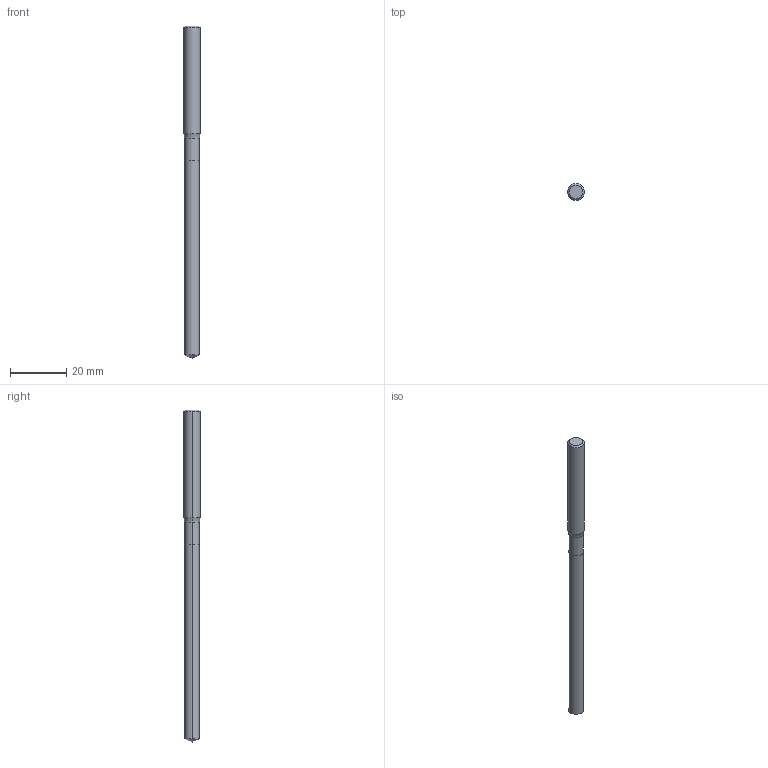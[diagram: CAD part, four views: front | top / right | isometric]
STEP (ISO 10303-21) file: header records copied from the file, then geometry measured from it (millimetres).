
FILE_DESCRIPTION (( 'STEP AP214' ), '1' );
FILE_NAME ('710.053.00_3D-model.step', '2022-02-22T16:46:21', ( '' ), ( '' ), 'SwSTEP 2.0', 'SolidWorks 2020', '' );
FILE_SCHEMA (( 'AUTOMOTIVE_DESIGN' ));
Length unit declared in the file: millimetre
Products named in the file (3): 710.053.00_3D-model; NOCUT-3D^Baugr14; CUT-3D^Baugr14
Assembly tree (2 placements, depth 2):
  710.053.00_3D-model
    CUT-3D^Baugr14
    NOCUT-3D^Baugr14
Bounding box: 6 x 6 x 118 mm (x, y, z)
Volume: 2825.6 mm3; surface area: 2122.1 mm2
Topology: 2 solids, 2 shells, 15 faces, 28 edges, 15 vertices
Faces by surface type: cylinder 6, cone 4, plane 3, torus 2
Entity records: 482 total; most frequent: DIRECTION 88, CARTESIAN_POINT 64, ORIENTED_EDGE 52, AXIS2_PLACEMENT_3D 39, EDGE_CURVE 26, CIRCLE 16, VERTEX_POINT 15, ADVANCED_FACE 15
